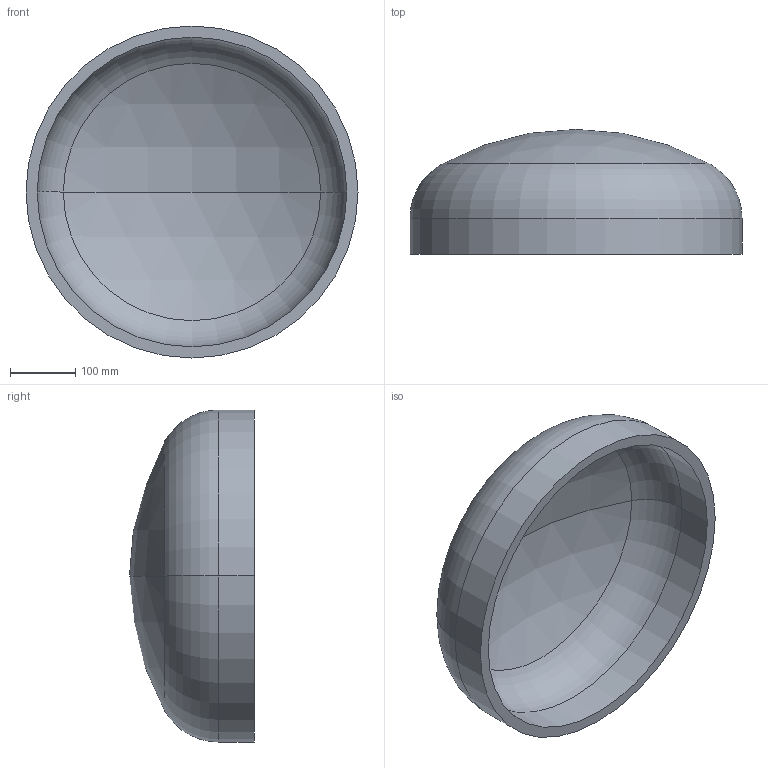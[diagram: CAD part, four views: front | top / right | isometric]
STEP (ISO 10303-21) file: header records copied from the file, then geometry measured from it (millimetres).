
FILE_DESCRIPTION (( 'STEP AP203' ), '1' );
FILE_NAME ('DIN 28013 Korbbogenform_-_Boden DIN 28013 - 508 x 55 - I - s=17.step', '2016-07-01T07:52:49', ( '' ), ( '' ), 'SwSTEP 2.0', 'SolidWorks 2013', '' );
FILE_SCHEMA (( 'CONFIG_CONTROL_DESIGN' ));
Length unit declared in the file: millimetre
Products named in the file (1): DIN 28013 Korbbogenform_-_Boden DIN 28013 - 508 x 55 - I - s=17
Bounding box: 508 x 191.12 x 508 mm (x, y, z)
Volume: 6008397.4 mm3; surface area: 733698.2 mm2
Topology: 1 solids, 1 shells, 13 faces, 24 edges, 14 vertices
Faces by surface type: torus 4, cylinder 4, sphere 4, plane 1
Entity records: 407 total; most frequent: DIRECTION 72, CARTESIAN_POINT 52, ORIENTED_EDGE 48, AXIS2_PLACEMENT_3D 34, EDGE_CURVE 24, CIRCLE 20, EDGE_LOOP 14, VERTEX_POINT 14
